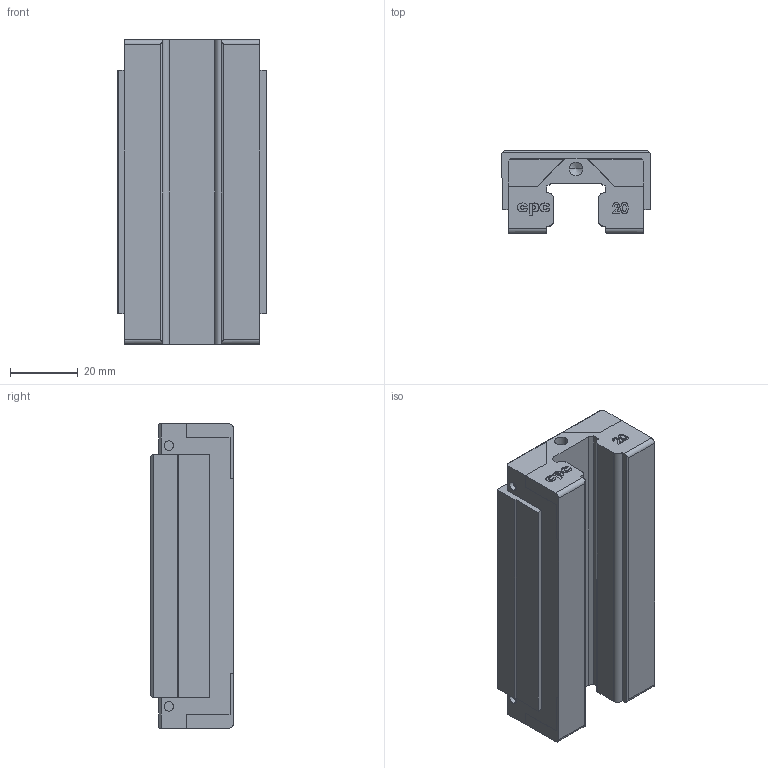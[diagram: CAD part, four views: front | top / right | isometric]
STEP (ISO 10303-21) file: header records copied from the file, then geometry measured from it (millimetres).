
FILE_DESCRIPTION (( 'STEP AP203' ), '1' );
FILE_NAME ('HR20ML.STEP', '2009-08-03T10:40:12', ( 'cpc' ), ( '' ), 'SwSTEP 2.0', 'SolidWorks 2007', '' );
FILE_SCHEMA (( 'CONFIG_CONTROL_DESIGN' ));
Length unit declared in the file: millimetre
Products named in the file (1): HR20ML
Bounding box: 44 x 24.5 x 90.2 mm (x, y, z)
Volume: 70889.3 mm3; surface area: 17416.5 mm2
Topology: 1 solids, 1 shells, 266 faces, 706 edges, 458 vertices
Faces by surface type: plane 118, bspline 90, cylinder 38, cone 20
Entity records: 12933 total; most frequent: CARTESIAN_POINT 6895, ORIENTED_EDGE 1388, DIRECTION 936, EDGE_CURVE 694, VERTEX_POINT 458, LINE 422, VECTOR 422, EDGE_LOOP 294
